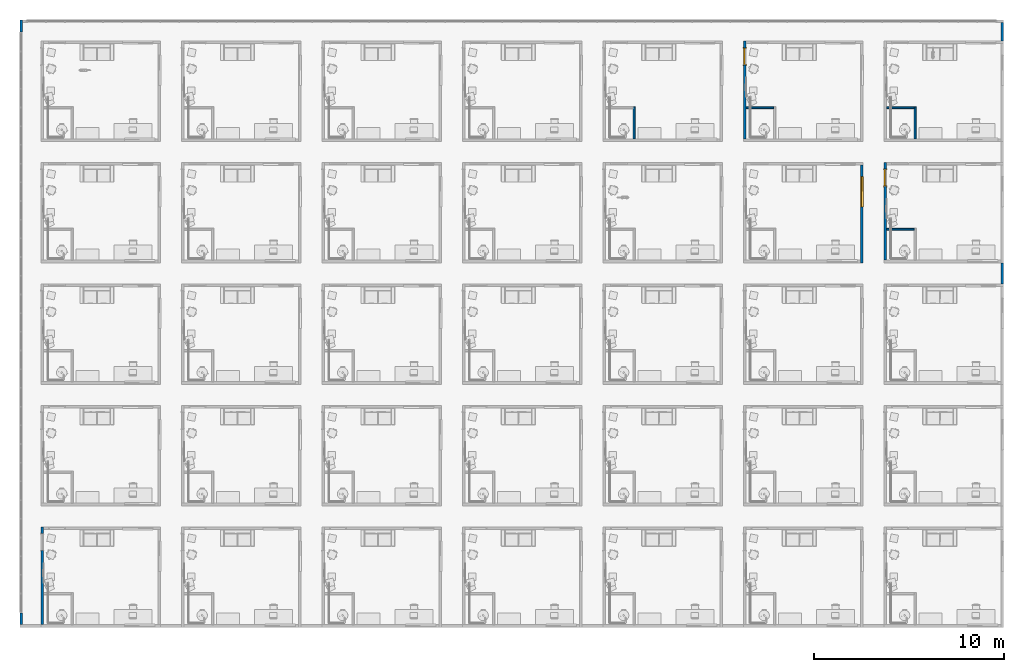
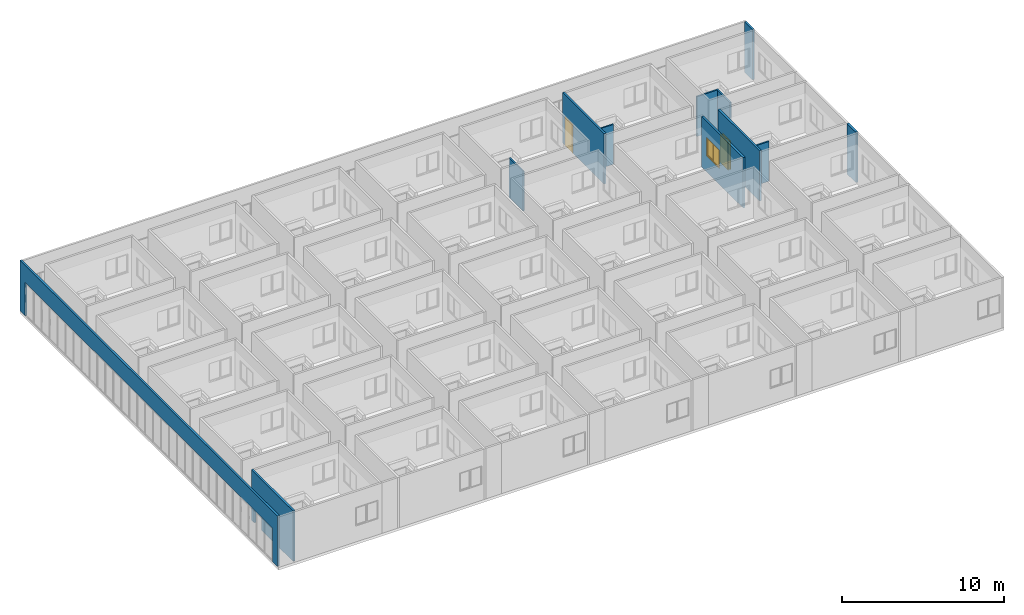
# One storey, part 10 of 71: 12 walls, 2 doors, 1 window, 5 openings.
"""IFC4 building model written with IfcOpenShell, lengths in centimetres."""

import ifcopenshell
import ifcopenshell.guid

model = None  # the IFC model being written
_history = None  # IfcOwnerHistory: only IFC2X3 demands one
_inside = {}  # id of a spatial element -> (the spatial element, [elements in it])
_under = {}  # id of a project, library or spatial element -> (it, [spatial elements below it])
_declared = {}  # id of a project -> (the project, [libraries it declares])
_typed = {}  # id of a type object -> (the type object, [elements of that type])
_made_of = {}  # id of a material, layer set ... -> (it, [elements and type objects made of it])


def new_model(schema):
    """Start an empty IFC model of exactly this schema.

    Asked for "IFC4X3", IfcOpenShell would pick the latest addendum, in which some entities
    have other attributes; the version numbers below select the first issue.
    IFC2X3 requires an IfcOwnerHistory on every rooted entity: one is made here for all.
    """
    global model, _history
    if schema == "IFC4X3":
        model = ifcopenshell.file(schema_version=(4, 3, 0, 0))
    else:
        model = ifcopenshell.file(schema=schema)
    _inside.clear()
    _under.clear()
    _declared.clear()
    _typed.clear()
    _made_of.clear()
    _history = None
    if model.schema == "IFC2X3":
        org = make("IfcOrganization", Name="unknown")
        user = make(
            "IfcPersonAndOrganization",
            ThePerson=make("IfcPerson", FamilyName="unknown"),
            TheOrganization=org,
        )
        app = make(
            "IfcApplication",
            ApplicationDeveloper=org,
            Version="unknown",
            ApplicationFullName="unknown",
            ApplicationIdentifier="unknown",
        )
        _history = make(
            "IfcOwnerHistory",
            OwningUser=user,
            OwningApplication=app,
            ChangeAction="ADDED",
            CreationDate=0,
        )
    return model


def make(cls, **values):
    """One entity of the class cls with the attributes given. An attribute that is None is left unset."""
    return model.create_entity(
        cls, **{name: value for name, value in values.items() if value is not None}
    )


def entity(cls, *values):
    """Any entity or typed value of the class cls, its attributes in the order of the schema. None: left unset."""
    e = model.create_entity(cls)
    for i, value in enumerate(values):
        if value is not None:
            e[i] = value
    return e


def rooted(cls, **values):
    """An entity with a GlobalId (a new one), such as an element, a storey or a relation."""
    return make(cls, GlobalId=ifcopenshell.guid.new(), OwnerHistory=_history, **values)


def si_unit(unit_type, name, prefix=None):
    """IfcSIUnit, for example si_unit("LENGTHUNIT", "METRE", prefix="MILLI")."""
    return make("IfcSIUnit", UnitType=unit_type, Prefix=prefix, Name=name)


def converted_unit(unit_type, name, factor, base, dimensions=None, offset=None):
    """IfcConversionBasedUnit, such as the inch: factor (a typed value) times the base unit."""
    return make(
        "IfcConversionBasedUnit"
        if offset is None
        else "IfcConversionBasedUnitWithOffset",
        ConversionOffset=offset,
        Dimensions=None
        if dimensions is None
        else entity("IfcDimensionalExponents", *dimensions),
        UnitType=unit_type,
        Name=name,
        ConversionFactor=make(
            "IfcMeasureWithUnit", ValueComponent=factor, UnitComponent=base
        ),
    )


def derived_unit(unit_type, elements):
    """IfcDerivedUnit: a product of units, each with its exponent."""
    return make(
        "IfcDerivedUnit",
        Elements=[
            make("IfcDerivedUnitElement", Unit=unit, Exponent=power)
            for unit, power in elements
        ],
        UnitType=unit_type,
    )


def assignment(units):
    """IfcUnitAssignment: the units of a project."""
    return None if units is None else make("IfcUnitAssignment", Units=units)


def point(xyz):
    """IfcCartesianPoint."""
    return None if xyz is None else make("IfcCartesianPoint", Coordinates=xyz)


def direction(xyz):
    """IfcDirection."""
    return None if xyz is None else make("IfcDirection", DirectionRatios=xyz)


def frame(location, z_axis=None, x_axis=None):
    """IfcAxis2Placement3D, a coordinate frame: its origin and axes. An axis left out is left unset."""
    return make(
        "IfcAxis2Placement3D",
        Location=point(location),
        Axis=direction(z_axis),
        RefDirection=direction(x_axis),
    )


def origin():
    """The frame at (0, 0, 0) with its axes left unset."""
    return frame((0.0, 0.0, 0.0))


def place(relative_to, where):
    """IfcLocalPlacement: puts the frame where relative to a parent placement (None: the world)."""
    return make(
        "IfcLocalPlacement", PlacementRelTo=relative_to, RelativePlacement=where
    )


def context(
    kind, dimensions, precision=None, world=None, true_north=None, identifier=None
):
    """IfcGeometricRepresentationContext, for example the 3D "Model" context."""
    return make(
        "IfcGeometricRepresentationContext",
        ContextIdentifier=identifier,
        ContextType=kind,
        CoordinateSpaceDimension=dimensions,
        Precision=precision,
        WorldCoordinateSystem=world,
        TrueNorth=true_north,
    )


def subcontext(parent, identifier, kind, view, scale=None):
    """IfcGeometricRepresentationSubContext, for example "Body" below "Model"."""
    return make(
        "IfcGeometricRepresentationSubContext",
        ContextIdentifier=identifier,
        ContextType=kind,
        ParentContext=parent,
        TargetScale=scale,
        TargetView=view,
    )


def project(units=None, contexts=None):
    """IfcProject with its units and contexts."""
    return rooted(
        "IfcProject",
        Name="project",
        RepresentationContexts=contexts,
        UnitsInContext=assignment(units),
    )


def spatial(cls, under=None, at=None, **own):
    """A site, building, storey or space (cls), placed at a placement, below another one or the project."""
    s = rooted(cls, ObjectPlacement=at, **own)
    if under is not None:
        _under.setdefault(under.id(), (under, []))[1].append(s)
    return s


def point_list(points):
    """IfcCartesianPointList2D or 3D."""
    cls = (
        "IfcCartesianPointList2D" if len(points[0]) == 2 else "IfcCartesianPointList3D"
    )
    return make(cls, CoordList=points)


def indexed_curve(points, segments=None, self_intersect=None):
    """IfcIndexedPolyCurve: lines and arcs through numbered points (the first is 1)."""
    return make(
        "IfcIndexedPolyCurve",
        Points=point_list(points),
        Segments=segments,
        SelfIntersect=self_intersect,
    )


def outline(outer, holes=None, kind="AREA"):
    """IfcArbitraryClosedProfileDef: a profile drawn as a closed curve; with holes, ...WithVoids."""
    if holes is None:
        return make("IfcArbitraryClosedProfileDef", ProfileType=kind, OuterCurve=outer)
    return make(
        "IfcArbitraryProfileDefWithVoids",
        ProfileType=kind,
        OuterCurve=outer,
        InnerCurves=holes,
    )


def extrude(swept, where, along, depth):
    """IfcExtrudedAreaSolid: the profile swept, set in the frame where, extruded along a direction by depth."""
    return make(
        "IfcExtrudedAreaSolid",
        SweptArea=swept,
        Position=where,
        ExtrudedDirection=direction(along),
        Depth=depth,
    )


def polygons(points, faces, closed=None, point_numbers=None):
    """IfcPolygonalFaceSet: a face is its outer loop, then its inner loops; points numbered from 1."""
    made = []
    for loops in faces:
        if len(loops) == 1:
            made.append(make("IfcIndexedPolygonalFace", CoordIndex=loops[0]))
        else:
            made.append(
                make(
                    "IfcIndexedPolygonalFaceWithVoids",
                    CoordIndex=loops[0],
                    InnerCoordIndices=loops[1:],
                )
            )
    return make(
        "IfcPolygonalFaceSet",
        Coordinates=point_list(points),
        Closed=closed,
        Faces=made,
        PnIndex=point_numbers,
    )


def shape(context_of_items, identifier, shape_type, items):
    """IfcShapeRepresentation: the items that make up one representation, for example the "Body"."""
    return make(
        "IfcShapeRepresentation",
        ContextOfItems=context_of_items,
        RepresentationIdentifier=identifier,
        RepresentationType=shape_type,
        Items=items,
    )


def source(mapping_origin, context_of_items, identifier, shape_type, items):
    """IfcRepresentationMap: a shape defined once, which mapped items show again and again."""
    return make(
        "IfcRepresentationMap",
        MappingOrigin=mapping_origin,
        MappedRepresentation=shape(context_of_items, identifier, shape_type, items),
    )


def transform(
    local_origin,
    x_axis=None,
    y_axis=None,
    z_axis=None,
    scale=None,
    scale2=None,
    scale3=None,
    uniform=True,
):
    """IfcCartesianTransformationOperator3D, or its non-uniform kind. x_axis, y_axis, z_axis: its Axis1, 2, 3."""
    if uniform:
        return make(
            "IfcCartesianTransformationOperator3D",
            Axis1=direction(x_axis),
            Axis2=direction(y_axis),
            LocalOrigin=point(local_origin),
            Scale=scale,
            Axis3=direction(z_axis),
        )
    return make(
        "IfcCartesianTransformationOperator3DnonUniform",
        Axis1=direction(x_axis),
        Axis2=direction(y_axis),
        LocalOrigin=point(local_origin),
        Scale=scale,
        Axis3=direction(z_axis),
        Scale2=scale2,
        Scale3=scale3,
    )


def mapped(mapping_source, mapping_target):
    """IfcMappedItem: shows the shape of a source again, moved by a transform."""
    return make(
        "IfcMappedItem", MappingSource=mapping_source, MappingTarget=mapping_target
    )


def material(Name=None, Category=None):
    """IfcMaterial."""
    return make("IfcMaterial", Name=Name, Category=Category)


def constituent(of_material, Name=None, Category=None, fraction=None):
    """IfcMaterialConstituent: one of the materials an element consists of."""
    return make(
        "IfcMaterialConstituent",
        Name=Name,
        Material=of_material,
        Fraction=fraction,
        Category=Category,
    )


def constituent_set(constituents=None, Name=None):
    """IfcMaterialConstituentSet."""
    return make(
        "IfcMaterialConstituentSet", Name=Name, MaterialConstituents=constituents
    )


def made_of(thing, what):
    """Note that an element or type object is made of a material, layer set ...; save() writes the relation."""
    if what is not None:
        _made_of.setdefault(what.id(), (what, []))[1].append(thing)
    return thing


def type_object(cls, material=None, **own):
    """A type object (cls), such as IfcWallType, which elements share."""
    return made_of(rooted(cls, **own), material)


def type_shapes(of_type, sources):
    """Give a type object the sources (RepresentationMaps) that its elements show as mapped items."""
    of_type.RepresentationMaps = sources


def element(
    cls,
    number,
    at=None,
    inside=None,
    cuts=None,
    type_object=None,
    material=None,
    context=None,
    identifier="Body",
    shape_type=None,
    held_by="IfcProductDefinitionShape",
    body=None,
    shapes=None,
    **own,
):
    """One element of the class cls, such as IfcWall. Its Tag is "e" and its number.

    at: its placement. inside: the storey or other place that contains it. cuts: it is an
    opening in that element (IfcRelVoidsElement). A single representation is given by context,
    identifier, shape_type and body (its items); several are given by shapes. held_by: the class
    of the entity that holds the representations. save() writes the other relations.
    """
    e = rooted(cls, Tag="e%d" % number, ObjectPlacement=at, **own)
    if body is not None:
        shapes = [shape(context, identifier, shape_type, body)]
    if shapes is not None:
        e.Representation = make(held_by, Representations=shapes)
    if inside is not None:
        _inside.setdefault(inside.id(), (inside, []))[1].append(e)
    if cuts is not None:
        rooted(
            "IfcRelVoidsElement", RelatingBuildingElement=cuts, RelatedOpeningElement=e
        )
    if type_object is not None:
        _typed.setdefault(type_object.id(), (type_object, []))[1].append(e)
    return made_of(e, material)


def fill(opening, filler):
    """IfcRelFillsElement: the door or window that sits in an opening."""
    return rooted(
        "IfcRelFillsElement",
        RelatingOpeningElement=opening,
        RelatedBuildingElement=filler,
    )


def aggregate(whole, parts):
    """IfcRelAggregates: a whole, such as a stair, and the parts it consists of."""
    return rooted("IfcRelAggregates", RelatingObject=whole, RelatedObjects=parts)


def save(model, path):
    """Write the relations noted so far, then the file.

    IfcRelAggregates (storeys below a building ...), IfcRelContainedInSpatialStructure (elements
    in a storey), IfcRelDefinesByType, IfcRelAssociatesMaterial and IfcRelDeclares: one each for
    every whole, place, type object, material and project.
    """
    for whole, parts in _under.values():
        aggregate(whole, parts)
    for where, things in _inside.values():
        rooted(
            "IfcRelContainedInSpatialStructure",
            RelatedElements=things,
            RelatingStructure=where,
        )
    for kind, things in _typed.values():
        rooted("IfcRelDefinesByType", RelatedObjects=things, RelatingType=kind)
    for what, things in _made_of.values():
        rooted("IfcRelAssociatesMaterial", RelatedObjects=things, RelatingMaterial=what)
    for by, libraries in _declared.values():
        rooted("IfcRelDeclares", RelatingContext=by, RelatedDefinitions=libraries)
    model.write(path)


model = new_model("IFC4")

# Units and contexts
model_context = context("Model", 3, precision=0.001, world=origin(), true_north=direction((6.123233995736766e-17, 1.0)))
body_context = subcontext(model_context, "Body", "Model", "MODEL_VIEW")
ifc_project = project(units=[si_unit("LENGTHUNIT", "METRE", prefix="CENTI"), si_unit("AREAUNIT", "SQUARE_METRE"), si_unit("VOLUMEUNIT", "CUBIC_METRE"), derived_unit("THERMALTRANSMITTANCEUNIT", [(si_unit("MASSUNIT", "GRAM", prefix="KILO"), 1), (si_unit("THERMODYNAMICTEMPERATUREUNIT", "KELVIN"), -1), (si_unit("TIMEUNIT", "SECOND"), -3)]), converted_unit("PLANEANGLEUNIT", "DEGREE", entity("IfcPlaneAngleMeasure", 0.017453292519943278), si_unit("PLANEANGLEUNIT", "RADIAN"), dimensions=[0, 0, 0, 0, 0, 0, 0]), derived_unit("MASSDENSITYUNIT", [(si_unit("MASSUNIT", "GRAM", prefix="KILO"), 1), (si_unit("LENGTHUNIT", "METRE"), -3)]), derived_unit("VAPORPERMEABILITYUNIT", [(si_unit("LENGTHUNIT", "METRE"), -1), (si_unit("TIMEUNIT", "SECOND"), 1)]), derived_unit("USERDEFINED", [(si_unit("MASSUNIT", "GRAM", prefix="KILO"), 1), (si_unit("TIMEUNIT", "SECOND"), -3), (si_unit("LENGTHUNIT", "METRE"), 3), (si_unit("ELECTRICCURRENTUNIT", "AMPERE"), -2)]), derived_unit("SPECIFICHEATCAPACITYUNIT", [(si_unit("THERMODYNAMICTEMPERATUREUNIT", "KELVIN"), -1), (si_unit("LENGTHUNIT", "METRE"), 2), (si_unit("TIMEUNIT", "SECOND"), -2)]), derived_unit("THERMALCONDUCTANCEUNIT", [(si_unit("MASSUNIT", "GRAM", prefix="KILO"), 1), (si_unit("THERMODYNAMICTEMPERATUREUNIT", "KELVIN"), -1), (si_unit("TIMEUNIT", "SECOND"), -3), (si_unit("LENGTHUNIT", "METRE"), 1)]), si_unit("PRESSUREUNIT", "PASCAL"), derived_unit("MODULUSOFELASTICITYUNIT", [(si_unit("MASSUNIT", "GRAM", prefix="KILO"), 1), (si_unit("LENGTHUNIT", "METRE"), -1), (si_unit("TIMEUNIT", "SECOND"), -2)]), derived_unit("THERMALEXPANSIONCOEFFICIENTUNIT", [(si_unit("THERMODYNAMICTEMPERATUREUNIT", "KELVIN"), -1)])], contexts=[model_context])

# Site, building, storey
site_placement = place(None, origin())
site = spatial("IfcSite", under=ifc_project, at=site_placement, Name="Default", CompositionType="ELEMENT")
building_placement = place(site_placement, origin())
building = spatial("IfcBuilding", under=site, at=building_placement, Name="IDS Escape Game Building", CompositionType="ELEMENT")
storey_placement = place(building_placement, frame((0.0, 0.0, 400.0)))
storey = spatial("IfcBuildingStorey", under=building, at=storey_placement, Name="01_First Floor", CompositionType="ELEMENT", Elevation=399.99999999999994)

# Wall, opening
ifc_material_1 = material(Name="ARC_FME.g2_Fg2 Masonry_00_gen_BERSnl", Category="g - klei")
wall_type_1 = type_object("IfcWallType", Name="Basic Wall:ARC_22.10_WA_LB_SB14_gen_BERSnl", PredefinedType="STANDARD")
wall_1_placement = place(storey_placement, frame((0.0, 527.0, 0.0), z_axis=(0.0, 0.0, 1.0), x_axis=(0.0, -1.0, 0.0)))
wall_1 = element("IfcWall", 1, at=wall_1_placement, inside=storey, type_object=wall_type_1, material=ifc_material_1, Name="Basic Wall:ARC_22.10_WA_LB_SB14_gen_BERSnl", ObjectType="Basic Wall:ARC_22.10_WA_LB_SB14_gen_BERSnl", PredefinedType="NOTDEFINED", context=body_context, shape_type="Tessellation", body=[
    polygons([(513.9999999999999, -7.0, 379.9999999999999), (0.0, -7.0, 379.9999999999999), (0.0, -7.0, 0.0), (35.99999999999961, -7.0, 0.0), (35.99999999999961, -7.000000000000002, 215.00000000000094), (125.99999999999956, -7.000000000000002, 215.00000000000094), (125.99999999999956, -7.0, 0.0), (513.9999999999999, -7.0, 0.0), (0.0, 7.0, 379.9999999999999), (13.999999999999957, 7.0, 380.0), (513.9999999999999, 7.0, 379.9999999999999), (513.9999999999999, 7.0, 0.0), (355.99999999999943, 7.0, 0.0), (345.99999999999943, 7.0, 0.0), (125.99999999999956, 7.0, 0.0), (125.99999999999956, 6.9999999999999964, 215.00000000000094), (35.99999999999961, 7.000000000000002, 215.00000000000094), (35.99999999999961, 7.0, 0.0), (13.999999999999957, 7.0, 0.0), (0.0, 7.0, 0.0)], [[[1, 2, 3, 4, 5, 6, 7, 8]], [[9, 10, 11, 12, 13, 14, 15, 16, 17, 18, 19, 20]], [[3, 20, 19, 18, 4]], [[2, 1, 11, 10, 9]], [[17, 5, 4, 18]], [[6, 16, 15, 7]], [[5, 17, 16, 6]], [[3, 2, 9, 20]], [[1, 8, 12, 11]], [[12, 8, 7, 15, 14, 13]]], closed=True),
])
opening_1_placement = place(wall_1_placement, frame((527.0, 0.0, 0.0), z_axis=(0.0, 0.0, 1.0), x_axis=(0.0, 1.0, 0.0)))
element("IfcOpeningElement", 2, at=opening_1_placement, cuts=wall_1, Name="Basic Wall:ARC_22.10_WA_LB_SB14_gen_BERSnl", PredefinedType="OPENING", context=body_context, shape_type="SweptSolid", body=[
    extrude(outline(indexed_curve([(-137.49999999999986, -45.0), (137.49999999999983, -45.0), (137.49999999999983, 44.99999999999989), (-137.49999999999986, 44.99999999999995), (-137.49999999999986, -45.0)], self_intersect=False)), frame((-90.0, 446.0, 77.50000000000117), z_axis=(1.0, 0.0, 0.0), x_axis=(0.0, 0.0, 1.0)), (0.0, 0.0, 1.0), 166.0),
])

# Wall, opening, window
wall_2_placement = place(storey_placement, frame((4304.0, 1913.0, 0.0), z_axis=(0.0, 0.0, 1.0), x_axis=(0.0, 1.0, 0.0)))
wall_2 = element("IfcWall", 3, at=wall_2_placement, inside=storey, type_object=wall_type_1, material=ifc_material_1, Name="Basic Wall:ARC_22.10_WA_LB_SB14_gen_BERSnl", ObjectType="Basic Wall:ARC_22.10_WA_LB_SB14_gen_BERSnl", PredefinedType="NOTDEFINED", context=body_context, shape_type="Tessellation", body=[
    polygons([(0.0, -7.000000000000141, 0.0), (513.9999999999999, -7.000000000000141, 0.0), (513.9999999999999, -7.000000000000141, 379.9999999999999), (0.0, -7.000000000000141, 379.9999999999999), (454.0000000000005, -7.000000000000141, 260.0000000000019), (454.00000000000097, -7.000000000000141, 120.0), (294.00000000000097, -7.000000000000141, 120.0), (294.00000000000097, -7.000000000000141, 260.0000000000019), (454.00000000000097, 7.000000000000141, 120.0), (454.00000000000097, 7.000000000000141, 260.0000000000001), (294.00000000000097, 7.000000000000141, 260.0000000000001), (294.00000000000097, 7.000000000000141, 120.0), (0.0, 7.000000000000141, 0.0), (0.0, 7.000000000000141, 379.9999999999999), (14.000000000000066, 7.000000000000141, 380.0), (513.9999999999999, 7.000000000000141, 379.9999999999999), (513.9999999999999, 7.000000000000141, 0.0), (14.000000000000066, 7.000000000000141, 0.0)], [[[1, 2, 3, 4], [5, 6, 7, 8]], [[13, 14, 15, 16, 17, 18], [9, 10, 11, 12]], [[2, 1, 13, 18, 17]], [[4, 3, 16, 15, 14]], [[10, 9, 6, 5]], [[7, 12, 11, 8]], [[10, 5, 8, 11]], [[12, 7, 6, 9]], [[1, 4, 14, 13]], [[3, 2, 17, 16]]], closed=True),
])
opening_2_placement = place(wall_2_placement, frame((-1913.0, 4304.0, 120.0), z_axis=(0.0, 0.0, 1.0), x_axis=(0.0, -1.0, 0.0)))
opening_2 = element("IfcOpeningElement", 4, at=opening_2_placement, cuts=wall_2, Name="Basic Wall:ARC_22.10_WA_LB_SB14_gen_BERSnl", PredefinedType="OPENING", context=body_context, shape_type="Tessellation", body=[
    polygons([(4297.0, 2367.0000000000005, 0.0), (4297.0, 2367.0000000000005, -1.0), (4292.000000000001, 2367.0000000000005, -1.0), (4292.000000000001, 2367.0000000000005, 0.0), (4297.0, 2207.0000000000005, 0.0), (4292.000000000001, 2207.0000000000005, 0.0), (4292.000000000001, 2207.0000000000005, -1.0), (4297.0, 2207.0000000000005, -1.0), (4297.0, 2362.0000000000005, 0.0), (4297.0, 2212.0000000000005, 0.0), (4292.000000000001, 2212.0000000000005, 0.0), (4291.999999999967, 2212.0, 134.99999999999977), (4291.999999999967, 2362.0000000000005, 134.99999999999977), (4292.000000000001, 2362.0000000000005, 0.0), (4316.036825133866, 2367.0000000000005, 0.0), (4296.999999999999, 2367.0000000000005, 0.0), (4296.999999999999, 2367.0000000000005, 140.00000000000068), (4316.036825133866, 2367.0000000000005, 140.00000000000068), (4316.036825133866, 2207.0000000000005, 140.0000000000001), (4296.999999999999, 2207.0000000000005, 140.0000000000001), (4296.999999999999, 2207.0000000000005, 0.0), (4316.036825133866, 2207.0000000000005, 0.0), (4296.999999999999, 2362.0000000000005, 134.99999999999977), (4296.999999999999, 2212.0, 134.99999999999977)], [[[1, 2, 3, 4]], [[5, 6, 7, 8]], [[1, 9, 10, 5, 8, 2]], [[2, 8, 7, 3]], [[3, 7, 6, 11, 12, 13, 14, 4]], [[4, 14, 9, 1]], [[15, 16, 17, 18]], [[19, 20, 21, 22]], [[18, 17, 20, 19]], [[18, 19, 22, 15]], [[17, 16, 9, 23, 24, 10, 21, 20]], [[22, 21, 10, 9, 16, 15]], [[11, 10, 24, 12]], [[13, 23, 9, 14]], [[12, 24, 23, 13]], [[5, 10, 11, 6]]], closed=True),
])
ifc_material_2 = material(Name="<Unnamed>")
ifc_constituent_1 = constituent(ifc_material_2, Name="<Unnamed>", fraction=0.0)
ifc_material_3 = material(Name="ARC_FME.o1_glass_00_gen_BERSnl", Category="o - glas")
ifc_constituent_2 = constituent(ifc_material_3, Name="ARC_FME.o1_glass_00_gen_BERSnl", Category="o - glas", fraction=1.0)
ifc_constituent_set_1 = constituent_set(constituents=[ifc_constituent_1, ifc_constituent_2])
ifc_constituent_3 = constituent(ifc_material_2, Name="BE Tablet", fraction=0.0)
ifc_constituent_4 = constituent(ifc_material_2, Name="Frame/Mullion", fraction=0.0)
ifc_constituent_5 = constituent(ifc_material_3, Name="Glass", Category="o - glas", fraction=1.0)
ifc_constituent_set_2 = constituent_set(constituents=[ifc_constituent_3, ifc_constituent_4, ifc_constituent_5])
window_type = type_object("IfcWindowType", Name="ARC_31_WI_WB_Dubbel Raam-Recht-Vast en Draaiend_gen_BERSnl:Links-Draaiend / Rechts-Draaiend", PartitioningType="NOTDEFINED", PredefinedType="WINDOW", material=ifc_constituent_set_2)
shared_shape_1 = source(origin(), body_context, "Body", "Tessellation", [
    extrude(outline(indexed_curve([(-80.00000000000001, -4.999999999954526), (80.00000000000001, -4.999999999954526), (80.00000000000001, 4.999999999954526), (-80.00000000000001, 4.999999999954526), (-80.00000000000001, -4.999999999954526)], self_intersect=False)), frame((80.0, 7.036825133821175, 1.0), z_axis=(0.0, 0.0, 1.0), x_axis=(-1.0, 0.0, 0.0)), (0.0, 0.0, 1.0), 2.000000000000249),
    extrude(outline(indexed_curve([(-2.9999999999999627, -3.000000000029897), (-7.656209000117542e-14, -3.000000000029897), (-7.064016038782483e-14, 5.979964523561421e-11), (3.0000000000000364, 5.978991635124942e-11), (3.0000000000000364, 2.9999999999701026), (-2.9999999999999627, 2.9999999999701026), (-2.9999999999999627, -3.000000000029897)], self_intersect=False)), frame((80.0, 15.03682513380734, 7.0)), (0.0, 0.0, 1.0), 128.00000000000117),
    extrude(outline(indexed_curve([(-35.499999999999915, -1.2000000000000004), (35.499999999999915, -1.2000000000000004), (35.49999999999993, 1.2), (-35.499999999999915, 1.2), (-35.499999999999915, -1.2000000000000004)], self_intersect=False)), frame((41.50000000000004, 15.036825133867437, 7.0), z_axis=(0.0, 0.0, 1.0), x_axis=(-1.0, 0.0, 0.0)), (0.0, 0.0, 1.0), 128.000000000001),
    extrude(outline(indexed_curve([(-67.00000000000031, -38.500000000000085), (67.00000000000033, -38.5000000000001), (67.00000000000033, 38.50000000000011), (-67.00000000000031, 38.50000000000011), (-67.00000000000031, -38.500000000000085)], self_intersect=False), holes=[indexed_curve([(61.00000000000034, -32.50000000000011), (-61.00000000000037, -32.500000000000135), (-61.00000000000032, 32.50000000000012), (61.00000000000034, 32.50000000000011), (61.00000000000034, -32.50000000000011)], self_intersect=False)]), frame((118.5, 9.03682513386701, 71.0), z_axis=(0.0, 1.0, 0.0), x_axis=(0.0, 0.0, -1.0)), (0.0, 0.0, 1.0), 6.0),
    extrude(outline(indexed_curve([(-32.500000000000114, -1.2000000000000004), (32.500000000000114, -1.2000000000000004), (32.500000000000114, 1.2000000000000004), (-32.500000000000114, 1.2000000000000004), (-32.500000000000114, -1.2000000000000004)], self_intersect=False)), frame((118.5, 12.036825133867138, 10.0), z_axis=(0.0, 0.0, 1.0), x_axis=(-1.0, 0.0, 0.0)), (0.0, 0.0, 1.0), 122.00000000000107),
    polygons([(160.00000000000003, 18.03682513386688, 141.00000000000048), (160.00000000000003, 18.03682513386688, 1.0000000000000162), (4.0607517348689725e-14, 18.036825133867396, 1.0000000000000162), (4.0607517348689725e-14, 18.036825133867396, 141.00000000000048), (6.000000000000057, 18.03682513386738, 135.00000000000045), (6.000000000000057, 18.03682513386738, 7.000000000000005), (76.99999999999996, 18.03682513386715, 7.000000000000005), (154.00000000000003, 18.0368251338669, 7.000000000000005), (154.00000000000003, 18.0368251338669, 135.00000000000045), (76.99999999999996, 18.03682513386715, 135.00000000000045), (160.0, 12.03682513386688, 141.00000000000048), (160.0, 12.03682513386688, 1.0000000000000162), (2.7071678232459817e-14, 12.036825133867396, 1.0000000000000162), (2.7071678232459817e-14, 12.036825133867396, 141.00000000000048), (6.000000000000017, 12.036825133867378, 135.00000000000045), (6.000000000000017, 12.036825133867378, 7.000000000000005), (76.99999999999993, 12.036825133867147, 7.000000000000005), (79.99999999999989, 12.036825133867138, 7.000000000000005), (79.9999999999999, 15.036825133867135, 7.000000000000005), (154.00000000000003, 15.0368251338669, 7.000000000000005), (154.00000000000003, 15.036825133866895, 135.00000000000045), (76.99999999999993, 12.036825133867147, 135.00000000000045), (79.99999999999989, 12.036825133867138, 135.00000000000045), (79.99999999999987, 12.036825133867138, 138.00000000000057), (157.00000000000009, 12.036825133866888, 138.00000000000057), (157.00000000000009, 12.036825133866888, 3.9999999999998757), (79.99999999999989, 12.036825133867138, 3.9999999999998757), (157.0000000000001, 15.036825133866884, 3.9999999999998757), (157.0000000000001, 15.036825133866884, 138.00000000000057), (79.99999999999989, 15.036825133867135, 3.9999999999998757), (79.99999999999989, 15.036825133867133, 138.00000000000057), (79.99999999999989, 15.036825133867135, 135.00000000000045)], [[[1, 2, 3, 4], [5, 6, 7, 8, 9, 10]], [[2, 1, 11, 12]], [[3, 2, 12, 13]], [[4, 3, 13, 14]], [[6, 5, 15, 16]], [[6, 16, 17, 18, 19, 20, 8, 7]], [[9, 8, 20, 21]], [[11, 14, 13, 12], [16, 15, 22, 23, 24, 25, 26, 27, 18, 17]], [[28, 26, 25, 29]], [[30, 27, 26, 28]], [[31, 24, 23, 32]], [[30, 28, 29, 31, 32, 21, 20, 19]], [[1, 4, 14, 11]], [[15, 5, 10, 9, 21, 32, 23, 22]], [[24, 31, 29, 25]], [[27, 30, 19, 18]]], closed=True),
])
type_shapes(window_type, [shared_shape_1])
window_placement = place(opening_2_placement, frame((4316.036825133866, 2207.0, -1.0), z_axis=(0.0, 0.0, 1.0), x_axis=(0.0, 1.0, 0.0)))
window = element("IfcWindow", 5, at=window_placement, inside=storey, type_object=window_type, material=ifc_constituent_set_1, Name="ARC_31_WI_WB_Dubbel Raam-Recht-Vast en Draaiend_gen_BERSnl:Links-Draaiend / Rechts-Draaiend", ObjectType="ARC_31_WI_WB_Dubbel Raam-Recht-Vast en Draaiend_gen_BERSnl:Links-Draaiend / Rechts-Draaiend", OverallHeight=140.00000000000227, OverallWidth=160.0000000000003, PartitioningType="NOTDEFINED", PredefinedType="WINDOW", context=body_context, shape_type="MappedRepresentation", body=[
    mapped(shared_shape_1, transform((0.0, 0.0, 0.0), scale=1.0)),
])
fill(opening_2, window)

# Wall, opening, door
wall_3_placement = place(storey_placement, frame((4428.0, 2441.0, 0.0), z_axis=(0.0, 0.0, 1.0), x_axis=(0.0, -1.0, 0.0)))
wall_3 = element("IfcWall", 6, at=wall_3_placement, inside=storey, type_object=wall_type_1, material=ifc_material_1, Name="Basic Wall:ARC_22.10_WA_LB_SB14_gen_BERSnl", ObjectType="Basic Wall:ARC_22.10_WA_LB_SB14_gen_BERSnl", PredefinedType="NOTDEFINED", context=body_context, shape_type="Tessellation", body=[
    polygons([(513.9999999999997, -7.000000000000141, 379.9999999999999), (0.0, -7.000000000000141, 379.9999999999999), (0.0, -7.000000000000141, 0.0), (35.99999999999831, -7.000000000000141, 0.0), (35.99999999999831, -7.000000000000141, 215.00000000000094), (125.99999999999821, -7.000000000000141, 215.00000000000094), (125.99999999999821, -7.000000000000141, 0.0), (513.9999999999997, -7.000000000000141, 0.0), (0.0, 7.000000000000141, 379.9999999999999), (13.999999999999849, 7.000000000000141, 380.0), (513.9999999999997, 7.000000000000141, 379.9999999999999), (513.9999999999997, 7.000000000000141, 0.0), (355.99999999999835, 7.000000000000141, 0.0), (345.9999999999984, 7.000000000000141, 0.0), (125.99999999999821, 7.000000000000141, 0.0), (125.99999999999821, 7.000000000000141, 215.00000000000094), (35.99999999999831, 7.000000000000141, 215.00000000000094), (35.99999999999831, 7.000000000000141, 0.0), (13.999999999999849, 7.000000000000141, 0.0), (0.0, 7.000000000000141, 0.0)], [[[1, 2, 3, 4, 5, 6, 7, 8]], [[9, 10, 11, 12, 13, 14, 15, 16, 17, 18, 19, 20]], [[3, 20, 19, 18, 4]], [[2, 1, 11, 10, 9]], [[17, 5, 4, 18]], [[6, 16, 15, 7]], [[5, 17, 16, 6]], [[3, 2, 9, 20]], [[1, 8, 12, 11]], [[12, 8, 7, 15, 14, 13]]], closed=True),
])
opening_3_placement = place(wall_3_placement, frame((2441.0, -4428.0, 0.0), z_axis=(0.0, 0.0, 1.0), x_axis=(0.0, 1.0, 0.0)))
opening_3 = element("IfcOpeningElement", 7, at=opening_3_placement, cuts=wall_3, Name="Basic Wall:ARC_22.10_WA_LB_SB14_gen_BERSnl", PredefinedType="OPENING", context=body_context, shape_type="SweptSolid", body=[
    extrude(outline(indexed_curve([(-137.49999999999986, -45.00000000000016), (137.49999999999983, -45.00000000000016), (137.49999999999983, 44.99999999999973), (-137.49999999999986, 44.99999999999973), (-137.49999999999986, -45.00000000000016)], self_intersect=False)), frame((4338.0, 2360.0, 77.50000000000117), z_axis=(1.0, 0.0, 0.0), x_axis=(0.0, 0.0, 1.0)), (0.0, 0.0, 1.0), 166.00000000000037),
])
ifc_material_4 = material(Name="ARC_FME.i3_wood_00_gen_BERSnl", Category="i - hout")
door_type = type_object("IfcDoorType", Name="ARC_32.30_DO_WB_binnendeur enkel draaiend met void_gen_BERSnl:Fire Exit_830x2115_EI60", OperationType="SINGLE_SWING_RIGHT", PredefinedType="DOOR", material=ifc_material_4)
shared_shape_2 = source(origin(), body_context, "Body", "Tessellation", [
    extrude(outline(indexed_curve([(-41.49999999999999, -3.749999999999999), (41.49999999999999, -3.749999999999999), (41.49999999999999, 3.75), (-41.49999999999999, 3.75), (-41.49999999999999, -3.749999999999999)], self_intersect=False)), frame((45.0, 79.24999999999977, 60.0), z_axis=(0.0, 0.0, 1.0), x_axis=(-1.0, 0.0, 0.0)), (0.0, 0.0, 1.0), 211.50000000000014),
    polygons([(88.99999999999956, 82.99999999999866, 59.999999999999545), (88.9999999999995, 67.99999999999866, 59.999999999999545), (94.99999999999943, 67.99999999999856, 59.999999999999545), (94.99999999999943, 66.49999999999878, 59.999999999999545), (84.99999999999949, 66.4999999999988, 59.999999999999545), (84.99999999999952, 75.49999999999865, 59.999999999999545), (86.49999999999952, 75.49999999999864, 59.999999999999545), (86.49999999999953, 84.49999999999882, 59.999999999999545), (94.99999999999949, 84.49999999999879, 59.999999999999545), (94.99999999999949, 82.99999999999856, 59.999999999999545), (88.99999999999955, 82.99999999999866, 274.0000000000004), (88.9999999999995, 67.99999999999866, 274.0000000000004), (0.9999999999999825, 67.99999999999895, 274.0000000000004), (0.9999999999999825, 67.99999999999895, 59.99999999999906), (-4.999999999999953, 67.99999999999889, 59.99999999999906), (-4.999999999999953, 67.99999999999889, 280.00000000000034), (94.99999999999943, 67.99999999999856, 280.00000000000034), (94.99999999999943, 66.49999999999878, 280.00000000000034), (-4.999999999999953, 66.4999999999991, 280.00000000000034), (-4.999999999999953, 66.4999999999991, 59.99999999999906), (4.999999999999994, 66.49999999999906, 59.99999999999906), (4.999999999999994, 66.49999999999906, 270.00000000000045), (84.99999999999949, 66.4999999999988, 270.00000000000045), (84.99999999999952, 75.49999999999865, 270.00000000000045), (5.000000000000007, 75.4999999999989, 270.00000000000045), (5.0, 75.4999999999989, 59.99999999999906), (3.5000000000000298, 75.4999999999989, 59.99999999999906), (3.500000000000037, 75.4999999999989, 271.50000000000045), (86.4999999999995, 75.49999999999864, 271.50000000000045), (86.49999999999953, 84.49999999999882, 271.50000000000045), (3.5000000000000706, 84.49999999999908, 271.50000000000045), (3.500000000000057, 84.49999999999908, 59.99999999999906), (-4.999999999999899, 84.4999999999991, 59.99999999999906), (-4.999999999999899, 84.4999999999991, 280.00000000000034), (94.99999999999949, 84.49999999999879, 280.00000000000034), (94.99999999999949, 82.99999999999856, 280.00000000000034), (-4.999999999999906, 82.99999999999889, 280.00000000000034), (-4.999999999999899, 82.99999999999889, 59.99999999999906), (1.0000000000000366, 82.99999999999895, 59.99999999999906), (1.0000000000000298, 82.99999999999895, 274.0000000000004)], [[[1, 2, 3, 4, 5, 6, 7, 8, 9, 10]], [[2, 1, 11, 12]], [[3, 2, 12, 13, 14, 15, 16, 17]], [[4, 3, 17, 18]], [[5, 4, 18, 19, 20, 21, 22, 23]], [[6, 5, 23, 24]], [[7, 6, 24, 25, 26, 27, 28, 29]], [[8, 7, 29, 30]], [[9, 8, 30, 31, 32, 33, 34, 35]], [[10, 9, 35, 36]], [[1, 10, 36, 37, 38, 39, 40, 11]], [[37, 34, 33, 38]], [[39, 38, 33, 32, 27, 26, 21, 20, 15, 14]], [[13, 40, 39, 14]], [[31, 28, 27, 32]], [[25, 22, 21, 26]], [[19, 16, 15, 20]], [[36, 35, 34, 37]], [[30, 29, 28, 31]], [[24, 23, 22, 25]], [[18, 17, 16, 19]], [[12, 11, 40, 13]]], closed=True),
])
type_shapes(door_type, [shared_shape_2])
door_1_placement = place(opening_3_placement, frame((4504.0, 2315.0, -60.0), z_axis=(0.0, 0.0, 1.0), x_axis=(0.0, 1.0, 0.0)))
door_1 = element("IfcDoor", 8, at=door_1_placement, inside=storey, type_object=door_type, material=ifc_material_4, Name="ARC_32.30_DO_WB_binnendeur enkel draaiend met void_gen_BERSnl:Fire Exit_830x2115_EI60", ObjectType="ARC_32.30_DO_WB_binnendeur enkel draaiend met void_gen_BERSnl:Fire Exit_830x2115_EI60", OverallHeight=274.99999999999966, OverallWidth=89.9999999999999, PredefinedType="DOOR", context=body_context, shape_type="MappedRepresentation", body=[
    mapped(shared_shape_2, transform((0.0, 0.0, 0.0), scale=1.0)),
])
fill(opening_3, door_1)

wall_4_placement = place(storey_placement, frame((3690.0, 3079.0, 0.0), z_axis=(0.0, 0.0, 1.0), x_axis=(0.0, -1.0, 0.0)))
wall_4 = element("IfcWall", 9, at=wall_4_placement, inside=storey, type_object=wall_type_1, material=ifc_material_1, Name="Basic Wall:ARC_22.10_WA_LB_SB14_gen_BERSnl", ObjectType="Basic Wall:ARC_22.10_WA_LB_SB14_gen_BERSnl", PredefinedType="NOTDEFINED", context=body_context, shape_type="Tessellation", body=[
    polygons([(513.9999999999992, -6.999999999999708, 379.9999999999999), (4.331468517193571e-13, -6.999999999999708, 379.9999999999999), (4.331468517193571e-13, -6.999999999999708, 0.0), (35.99999999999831, -6.999999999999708, 0.0), (35.99999999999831, -6.999999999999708, 215.00000000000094), (125.99999999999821, -6.999999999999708, 215.00000000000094), (125.99999999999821, -6.999999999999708, 0.0), (513.9999999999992, -6.999999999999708, 0.0), (4.331468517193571e-13, 7.000000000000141, 379.9999999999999), (13.999999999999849, 7.000000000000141, 380.0), (513.9999999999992, 7.000000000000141, 379.9999999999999), (513.9999999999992, 7.000000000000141, 0.0), (355.99999999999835, 7.000000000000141, 0.0), (345.9999999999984, 7.000000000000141, 0.0), (125.99999999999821, 7.000000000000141, 0.0), (125.99999999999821, 7.000000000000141, 215.00000000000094), (35.99999999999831, 7.000000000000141, 215.00000000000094), (35.99999999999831, 7.000000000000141, 0.0), (13.999999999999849, 7.000000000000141, 0.0), (4.331468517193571e-13, 7.000000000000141, 0.0)], [[[1, 2, 3, 4, 5, 6, 7, 8]], [[9, 10, 11, 12, 13, 14, 15, 16, 17, 18, 19, 20]], [[3, 20, 19, 18, 4]], [[2, 1, 11, 10, 9]], [[17, 5, 4, 18]], [[6, 16, 15, 7]], [[5, 17, 16, 6]], [[3, 2, 9, 20]], [[1, 8, 12, 11]], [[12, 8, 7, 15, 14, 13]]], closed=True),
])
opening_4_placement = place(wall_4_placement, frame((3079.0, -3690.0, 0.0), z_axis=(0.0, 0.0, 1.0), x_axis=(0.0, 1.0, 0.0)))
opening_4 = element("IfcOpeningElement", 10, at=opening_4_placement, cuts=wall_4, Name="Basic Wall:ARC_22.10_WA_LB_SB14_gen_BERSnl", PredefinedType="OPENING", context=body_context, shape_type="SweptSolid", body=[
    extrude(outline(indexed_curve([(-137.49999999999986, -44.99999999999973), (137.49999999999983, -44.99999999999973), (137.49999999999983, 45.00000000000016), (-137.49999999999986, 45.00000000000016), (-137.49999999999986, -44.99999999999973)], self_intersect=False)), frame((3600.0, 2998.0, 77.50000000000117), z_axis=(1.0, 0.0, 0.0), x_axis=(0.0, 0.0, 1.0)), (0.0, 0.0, 1.0), 166.00000000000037),
])
door_2_placement = place(opening_4_placement, frame((3766.0, 2953.0, -60.0), z_axis=(0.0, 0.0, 1.0), x_axis=(0.0, 1.0, 0.0)))
door_2 = element("IfcDoor", 11, at=door_2_placement, inside=storey, type_object=door_type, material=ifc_material_4, Name="ARC_32.30_DO_WB_binnendeur enkel draaiend met void_gen_BERSnl:Fire Exit_830x2115_EI60", ObjectType="ARC_32.30_DO_WB_binnendeur enkel draaiend met void_gen_BERSnl:Fire Exit_830x2115_EI60", OverallHeight=274.99999999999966, OverallWidth=89.9999999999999, PredefinedType="DOOR", context=body_context, shape_type="MappedRepresentation", body=[
    mapped(shared_shape_2, transform((0.0, 0.0, 0.0), scale=1.0)),
])
fill(opening_4, door_2)

# Wall, opening
wall_5_placement = place(storey_placement, frame((-110.0, 13.0, 0.0), z_axis=(0.0, 0.0, 1.0), x_axis=(0.0, 1.0, 0.0)))
wall_5 = element("IfcWall", 12, at=wall_5_placement, inside=storey, type_object=wall_type_1, material=ifc_material_1, Name="Basic Wall:ARC_22.10_WA_LB_SB14_gen_BERSnl", ObjectType="Basic Wall:ARC_22.10_WA_LB_SB14_gen_BERSnl", PredefinedType="NOTDEFINED", context=body_context, shape_type="Tessellation", body=[
    polygons([(3176.0, -6.999999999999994, 379.9999999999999), (3161.9999999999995, -6.999999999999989, 380.0), (4.737543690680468e-14, -6.999999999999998, 379.9999999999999), (0.0, -6.999999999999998, -5.4143356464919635e-14), (61.999999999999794, -6.999999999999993, -5.4143356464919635e-14), (61.999999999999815, -6.999999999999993, 249.99999999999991), (3112.0, -6.9999999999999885, 249.99999999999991), (3112.0, -6.9999999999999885, -5.4143356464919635e-14), (3161.999999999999, -6.999999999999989, -5.4143356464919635e-14), (3176.0, -6.999999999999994, -5.4143356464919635e-14), (2.1995738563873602e-14, 6.999999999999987, 379.9999999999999), (3176.0, 7.000000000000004, 379.9999999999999), (3176.0, 7.000000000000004, -5.4143356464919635e-14), (3112.0, 7.000000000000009, -5.4143356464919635e-14), (3111.9999999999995, 7.000000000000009, 249.99999999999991), (61.999999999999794, 7.000000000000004, 249.99999999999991), (61.99999999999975, 7.000000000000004, -5.4143356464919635e-14), (2.368771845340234e-14, 6.999999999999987, -5.4143356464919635e-14)], [[[1, 2, 3, 4, 5, 6, 7, 8, 9, 10]], [[11, 12, 13, 14, 15, 16, 17, 18]], [[4, 18, 17, 5]], [[3, 2, 1, 12, 11]], [[4, 3, 11, 18]], [[1, 10, 13, 12]], [[7, 15, 14, 8]], [[15, 7, 6, 16]], [[16, 6, 5, 17]], [[13, 10, 9, 8, 14]]], closed=True),
])
opening_5_placement = place(wall_5_placement, origin())
element("IfcOpeningElement", 13, at=opening_5_placement, cuts=wall_5, Name="Basic Wall:ARC_22.10_WA_LB_SB14_gen_BERSnl", PredefinedType="OPENING", context=body_context, shape_type="SweptSolid", body=[
    extrude(outline(indexed_curve([(-1525.0, -125.0), (1525.0, -125.0), (1525.0, 124.99999999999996), (-1525.0, 124.99999999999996), (-1525.0, -125.0)], self_intersect=False)), frame((1587.0, -22.23999999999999, 125.0), z_axis=(0.0, 1.0, 0.0), x_axis=(-1.0, 0.0, 0.0)), (0.0, 0.0, 1.0), 44.48),
])

# Walls
wall_6_placement = place(storey_placement, frame((5042.0, 3175.0, 0.0), z_axis=(0.0, 0.0, 1.0), x_axis=(0.0, -1.0, 0.0)))
element("IfcWall", 14, at=wall_6_placement, inside=storey, type_object=wall_type_1, material=ifc_material_1, Name="Basic Wall:ARC_22.10_WA_LB_SB14_gen_BERSnl", ObjectType="Basic Wall:ARC_22.10_WA_LB_SB14_gen_BERSnl", PredefinedType="NOTDEFINED", context=body_context, shape_type="SweptSolid", body=[
    extrude(outline(indexed_curve([(95.99999999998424, 7.000000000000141), (0.0, 7.000000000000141), (0.0, -7.000000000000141), (95.99999999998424, -7.000000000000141), (95.99999999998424, 7.000000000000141)], self_intersect=False)), origin(), (0.0, 0.0, 1.0), 380.0),
])
wall_7_placement = place(storey_placement, frame((5042.0, 1913.0, 0.0), z_axis=(0.0, 0.0, 1.0), x_axis=(0.0, -1.0, 0.0)))
element("IfcWall", 15, at=wall_7_placement, inside=storey, type_object=wall_type_1, material=ifc_material_1, Name="Basic Wall:ARC_22.10_WA_LB_SB14_gen_BERSnl", ObjectType="Basic Wall:ARC_22.10_WA_LB_SB14_gen_BERSnl", PredefinedType="NOTDEFINED", context=body_context, shape_type="SweptSolid", body=[
    extrude(outline(indexed_curve([(109.9999999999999, 7.000000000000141), (0.0, 7.000000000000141), (0.0, -7.000000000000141), (109.9999999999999, -7.000000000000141), (109.9999999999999, 7.000000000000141)], self_intersect=False)), origin(), (0.0, 0.0, 1.0), 380.0),
])
ifc_material_5 = material(Name="ARC_FME.r2_Plaster_white_gen_BERSnl", Category="r - klei, gips, magnesium en kunststof bindmiddelen")
wall_type_2 = type_object("IfcWallType", Name="Basic Wall:ARC_22.10_WA_LB_GPS10_gen_BERSnl", PredefinedType="STANDARD")
wall_8_placement = place(storey_placement, frame((4580.0, 2090.0, 0.0), z_axis=(0.0, 0.0, 1.0), x_axis=(-1.0, 0.0, 0.0)))
element("IfcWall", 16, at=wall_8_placement, inside=storey, type_object=wall_type_2, material=ifc_material_5, Name="Basic Wall:ARC_22.10_WA_LB_GPS10_gen_BERSnl", ObjectType="Basic Wall:ARC_22.10_WA_LB_GPS10_gen_BERSnl", PredefinedType="NOTDEFINED", context=body_context, shape_type="SweptSolid", body=[
    extrude(outline(indexed_curve([(144.99999999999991, 5.000000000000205), (-1.6380951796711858e-14, 5.0000000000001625), (1.6380951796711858e-14, -5.0000000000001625), (144.99999999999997, -5.00000000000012), (144.99999999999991, 5.000000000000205)], self_intersect=False)), origin(), (0.0, 0.0, 1.0), 300.0),
])
wall_9_placement = place(storey_placement, frame((3109.0, 2565.0, 0.0), z_axis=(0.0, 0.0, 1.0), x_axis=(0.0, 1.0, 0.0)))
element("IfcWall", 17, at=wall_9_placement, inside=storey, type_object=wall_type_2, material=ifc_material_5, Name="Basic Wall:ARC_22.10_WA_LB_GPS10_gen_BERSnl", ObjectType="Basic Wall:ARC_22.10_WA_LB_GPS10_gen_BERSnl", PredefinedType="NOTDEFINED", context=body_context, shape_type="SweptSolid", body=[
    extrude(outline(indexed_curve([(168.00000000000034, 4.9999999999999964), (-7.956027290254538e-15, 5.0000000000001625), (7.956027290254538e-15, -5.0000000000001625), (168.00000000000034, -5.000000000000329), (168.00000000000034, 4.9999999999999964)], self_intersect=False)), origin(), (0.0, 0.0, 1.0), 300.0),
])
wall_10_placement = place(storey_placement, frame((3842.0, 2728.0, 0.0), z_axis=(0.0, 0.0, 1.0), x_axis=(-1.0, 0.0, 0.0)))
element("IfcWall", 18, at=wall_10_placement, inside=storey, type_object=wall_type_2, material=ifc_material_5, Name="Basic Wall:ARC_22.10_WA_LB_GPS10_gen_BERSnl", ObjectType="Basic Wall:ARC_22.10_WA_LB_GPS10_gen_BERSnl", PredefinedType="NOTDEFINED", context=body_context, shape_type="SweptSolid", body=[
    extrude(outline(indexed_curve([(144.99999999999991, 5.000000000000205), (-1.6380951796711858e-14, 5.0000000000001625), (1.6380951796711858e-14, -5.0000000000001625), (144.99999999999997, -5.00000000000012), (144.99999999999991, 5.000000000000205)], self_intersect=False)), origin(), (0.0, 0.0, 1.0), 300.0),
])
wall_11_placement = place(storey_placement, frame((4585.0, 2565.0, 0.0), z_axis=(0.0, 0.0, 1.0), x_axis=(0.0, 1.0, 0.0)))
element("IfcWall", 19, at=wall_11_placement, inside=storey, type_object=wall_type_2, material=ifc_material_5, Name="Basic Wall:ARC_22.10_WA_LB_GPS10_gen_BERSnl", ObjectType="Basic Wall:ARC_22.10_WA_LB_GPS10_gen_BERSnl", PredefinedType="NOTDEFINED", context=body_context, shape_type="SweptSolid", body=[
    extrude(outline(indexed_curve([(168.00000000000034, 4.9999999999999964), (-7.95602729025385e-15, 4.999999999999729), (7.95602729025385e-15, -4.999999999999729), (168.00000000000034, -4.999999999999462), (168.00000000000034, 4.9999999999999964)], self_intersect=False)), origin(), (0.0, 0.0, 1.0), 300.0),
])
wall_12_placement = place(storey_placement, frame((4580.0, 2728.0, 0.0), z_axis=(0.0, 0.0, 1.0), x_axis=(-1.0, 0.0, 0.0)))
element("IfcWall", 20, at=wall_12_placement, inside=storey, type_object=wall_type_2, material=ifc_material_5, Name="Basic Wall:ARC_22.10_WA_LB_GPS10_gen_BERSnl", ObjectType="Basic Wall:ARC_22.10_WA_LB_GPS10_gen_BERSnl", PredefinedType="NOTDEFINED", context=body_context, shape_type="SweptSolid", body=[
    extrude(outline(indexed_curve([(144.99999999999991, 5.000000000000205), (-1.6380951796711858e-14, 5.0000000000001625), (1.6380951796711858e-14, -5.0000000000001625), (144.99999999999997, -5.00000000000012), (144.99999999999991, 5.000000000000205)], self_intersect=False)), origin(), (0.0, 0.0, 1.0), 300.0),
])

save(model, "model.ifc")
